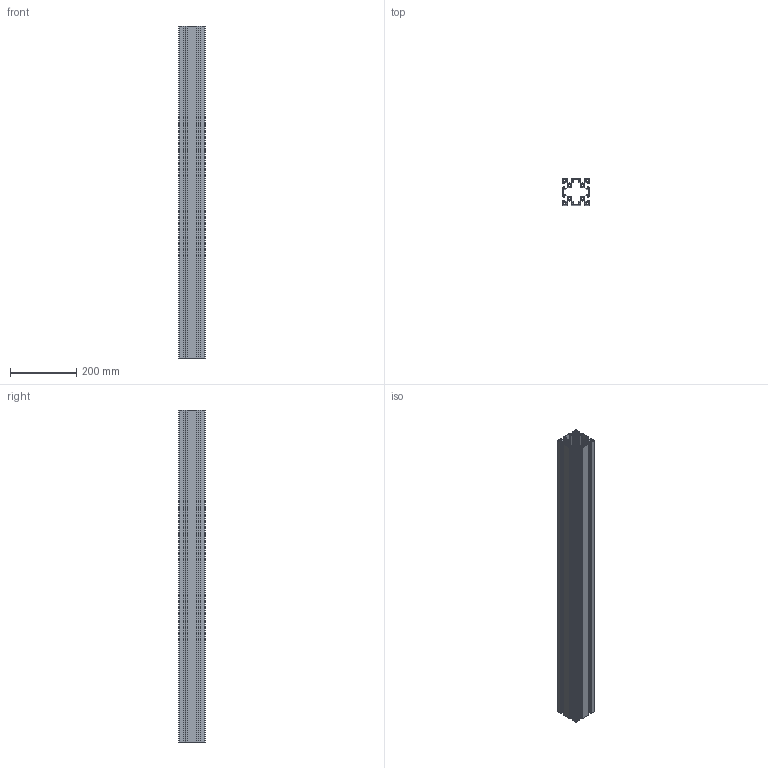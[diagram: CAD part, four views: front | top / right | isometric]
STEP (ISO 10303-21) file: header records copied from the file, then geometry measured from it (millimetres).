
FILE_DESCRIPTION (( 'STEP AP203' ), '1' );
FILE_NAME ('80x80 LÝGHT KANAL 10.STEP', '2016-04-04T15:19:41', ( '' ), ( '' ), 'SwSTEP 2.0', 'SolidWorks 2016', '' );
FILE_SCHEMA (( 'CONFIG_CONTROL_DESIGN' ));
Length unit declared in the file: millimetre
Products named in the file (1): 80x80 LÝGHT KANAL 10
Bounding box: 80 x 80 x 1000 mm (x, y, z)
Volume: 1191343.1 mm3; surface area: 1390774.3 mm2
Topology: 1 solids, 1 shells, 852 faces, 2550 edges, 1700 vertices
Faces by surface type: cylinder 450, plane 402
Entity records: 29087 total; most frequent: DIRECTION 5156, CARTESIAN_POINT 5103, ORIENTED_EDGE 5100, EDGE_CURVE 2550, AXIS2_PLACEMENT_3D 1753, VERTEX_POINT 1700, LINE 1650, VECTOR 1650
